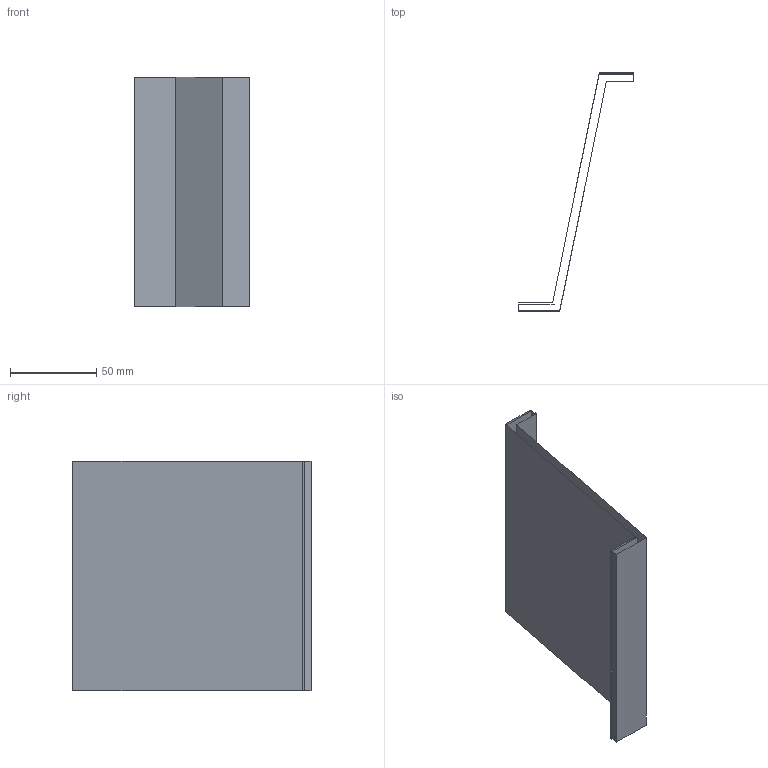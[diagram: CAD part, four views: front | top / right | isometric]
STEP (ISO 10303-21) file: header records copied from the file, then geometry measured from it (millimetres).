
FILE_DESCRIPTION(('CATIA V5 STEP Exchange'),'2;1');
FILE_NAME('C:\_Andres\UNIVERSIDAD\IQS\ASIGNATURAS\DAO\EXF\EXF-16172c\2inicio\Sarrió_Mercade_Ej06_v33.stp','2017-03-05T21:01:29+00:00',('none'),('none'),'CATIA Version 5-6 Release 2014 SP1 HF18','CATIA V5 STEP AP203','none');
FILE_SCHEMA(('CONFIG_CONTROL_DESIGN'));
Length unit declared in the file: millimetre
Products named in the file (1): Sarrió_Mercade_Ej06_v33
Bounding box: 67 x 138 x 133 mm (x, y, z)
Surface area: 53123.6 mm2 (no closed solid volume)
Topology: 0 solids, 2 shells, 10 faces, 42 edges, 36 vertices
Faces by surface type: plane 10
Entity records: 461 total; most frequent: CARTESIAN_POINT 100, DIRECTION 59, ORIENTED_EDGE 40, VECTOR 39, LINE 39, EDGE_CURVE 32, VERTEX_POINT 24, AXIS2_PLACEMENT_3D 11
